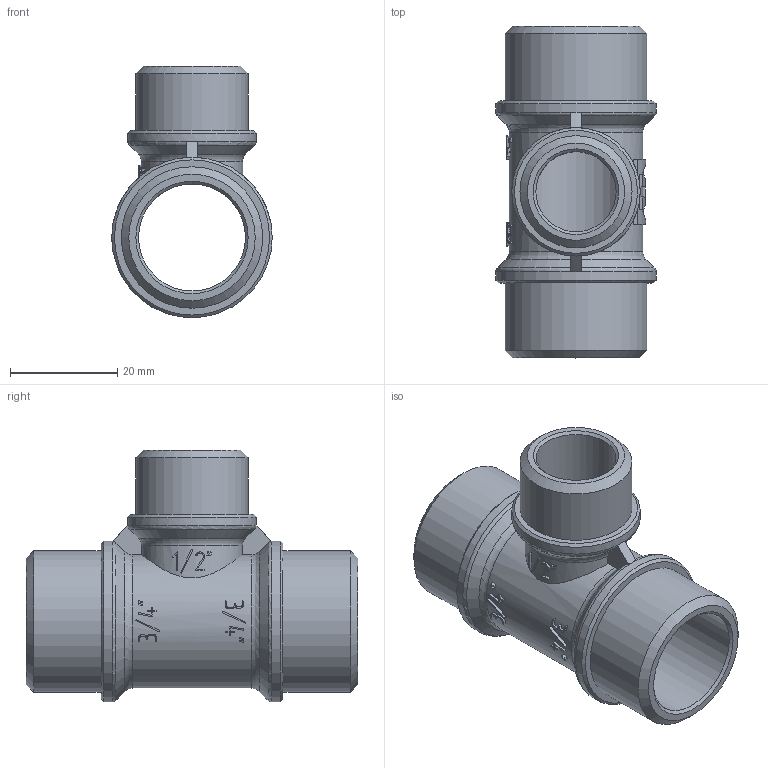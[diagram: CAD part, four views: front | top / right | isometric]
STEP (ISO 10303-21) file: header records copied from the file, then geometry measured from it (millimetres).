
FILE_DESCRIPTION(('STEP AP203'), '1');
FILE_NAME('ÂÐ.752242.004 - VTr.131.RN.050405 - Ôèò. ðåçüá. òðîé', '2024-06-25T07:31:56', ('Boss'), (''), 'C3D Converter', 'C3D Toolkit', '');
FILE_SCHEMA(('CONFIG_CONTROL_DESIGN'));
Length unit declared in the file: millimetre
Products named in the file (1): ВР.752242.004
Bounding box: 30 x 62 x 47 mm (x, y, z)
Volume: 17192.2 mm3; surface area: 12144.5 mm2
Topology: 1 solids, 1 shells, 366 faces, 1015 edges, 672 vertices
Faces by surface type: extrusion 196, plane 117, cylinder 32, cone 13, torus 8
Full cylindrical faces by diameter (mm): 15 x1, 20 x1, 20.955 x1, 24 x1, 26.441 x2, 30 x2
Entity records: 16351 total; most frequent: CARTESIAN_POINT 8116, ORIENTED_EDGE 1996, DIRECTION 1084, EDGE_CURVE 998, VERTEX_POINT 672, B_SPLINE_CURVE_WITH_KNOTS 625, VECTOR 560, EDGE_LOOP 408
